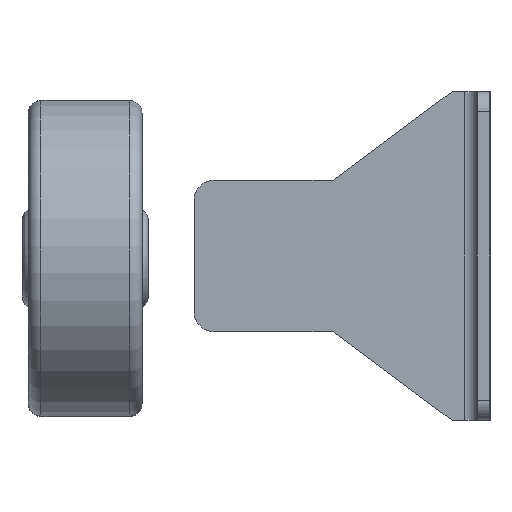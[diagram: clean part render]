
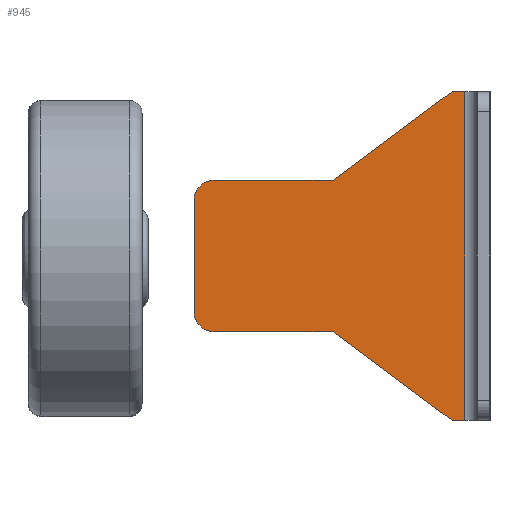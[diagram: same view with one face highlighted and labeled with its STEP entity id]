
A CAD part, left-side view. The second image highlights one B-rep face of the part: STEP entity #945.
In plain terms, the highlighted planar face has unit normal (-1, 0, 0).
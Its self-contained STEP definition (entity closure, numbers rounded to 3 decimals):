
#705=CARTESIAN_POINT('',(-450.,5.,-64.236));
#706=VERTEX_POINT('',#705);
#715=CARTESIAN_POINT('',(-450.,5.,65.764));
#716=VERTEX_POINT('',#715);
#724=CARTESIAN_POINT('',(-450.,5.,-64.236));
#725=DIRECTION('',(0.0,0.0,1.0));
#726=VECTOR('',#725,130.);
#727=LINE('',#724,#726);
#728=EDGE_CURVE('',#706,#716,#727,.T.);
#794=CARTESIAN_POINT('',(-450.,10.,-64.236));
#795=VERTEX_POINT('',#794);
#796=CARTESIAN_POINT('',(-450.,57.,-29.236));
#797=VERTEX_POINT('',#796);
#798=CARTESIAN_POINT('',(-450.,10.,-64.236));
#799=DIRECTION('',(0.,0.802,0.597));
#800=VECTOR('',#799,58.6);
#801=LINE('',#798,#800);
#802=EDGE_CURVE('',#795,#797,#801,.T.);
#825=CARTESIAN_POINT('',(-450.,5.,-64.236));
#826=DIRECTION('',(0.0,1.0,0.0));
#827=VECTOR('',#826,5.);
#828=LINE('',#825,#827);
#829=EDGE_CURVE('',#706,#795,#828,.T.);
#847=CARTESIAN_POINT('',(-450.,10.,65.764));
#848=VERTEX_POINT('',#847);
#855=CARTESIAN_POINT('',(-450.,10.,65.764));
#856=DIRECTION('',(0.0,-1.0,0.0));
#857=VECTOR('',#856,5.);
#858=LINE('',#855,#857);
#859=EDGE_CURVE('',#848,#716,#858,.T.);
#874=CARTESIAN_POINT('',(-450.,57.,30.764));
#875=VERTEX_POINT('',#874);
#876=CARTESIAN_POINT('',(-450.,57.,30.764));
#877=DIRECTION('',(0.,-0.802,0.597));
#878=VECTOR('',#877,58.6);
#879=LINE('',#876,#878);
#880=EDGE_CURVE('',#875,#848,#879,.T.);
#893=CARTESIAN_POINT('',(-450.,17.005,0.764));
#894=DIRECTION('',(-1.0,0.0,0.0));
#895=DIRECTION('',(0.0,0.0,1.0));
#896=AXIS2_PLACEMENT_3D('',#893,#894,#895);
#897=PLANE('',#896);
#898=ORIENTED_EDGE('',*,*,#728,.T.);
#899=ORIENTED_EDGE('',*,*,#859,.F.);
#900=ORIENTED_EDGE('',*,*,#880,.F.);
#901=CARTESIAN_POINT('',(-450.,104.,30.764));
#902=VERTEX_POINT('',#901);
#903=CARTESIAN_POINT('',(-450.,104.,30.764));
#904=DIRECTION('',(0.0,-1.0,0.0));
#905=VECTOR('',#904,47.);
#906=LINE('',#903,#905);
#907=EDGE_CURVE('',#902,#875,#906,.T.);
#908=ORIENTED_EDGE('',*,*,#907,.F.);
#909=CARTESIAN_POINT('',(-450.,112.,22.764));
#910=VERTEX_POINT('',#909);
#911=CARTESIAN_POINT('',(-450.,104.,22.764));
#912=DIRECTION('',(1.0,0.0,0.0));
#913=DIRECTION('',(0.0,0.0,1.0));
#914=AXIS2_PLACEMENT_3D('',#911,#912,#913);
#915=CIRCLE('',#914,8.0);
#916=EDGE_CURVE('',#910,#902,#915,.T.);
#917=ORIENTED_EDGE('',*,*,#916,.F.);
#918=CARTESIAN_POINT('',(-450.,112.,-21.236));
#919=VERTEX_POINT('',#918);
#920=CARTESIAN_POINT('',(-450.,112.,-21.236));
#921=DIRECTION('',(0.0,0.0,1.0));
#922=VECTOR('',#921,44.0);
#923=LINE('',#920,#922);
#924=EDGE_CURVE('',#919,#910,#923,.T.);
#925=ORIENTED_EDGE('',*,*,#924,.F.);
#926=CARTESIAN_POINT('',(-450.,104.,-29.236));
#927=VERTEX_POINT('',#926);
#928=CARTESIAN_POINT('',(-450.,104.,-21.236));
#929=DIRECTION('',(1.0,0.0,0.0));
#930=DIRECTION('',(0.0,1.0,0.0));
#931=AXIS2_PLACEMENT_3D('',#928,#929,#930);
#932=CIRCLE('',#931,8.0);
#933=EDGE_CURVE('',#927,#919,#932,.T.);
#934=ORIENTED_EDGE('',*,*,#933,.F.);
#935=CARTESIAN_POINT('',(-450.,57.,-29.236));
#936=DIRECTION('',(0.0,1.0,0.0));
#937=VECTOR('',#936,47.);
#938=LINE('',#935,#937);
#939=EDGE_CURVE('',#797,#927,#938,.T.);
#940=ORIENTED_EDGE('',*,*,#939,.F.);
#941=ORIENTED_EDGE('',*,*,#802,.F.);
#942=ORIENTED_EDGE('',*,*,#829,.F.);
#943=EDGE_LOOP('',(#898,#899,#900,#908,#917,#925,#934,#940,#941,#942));
#944=FACE_OUTER_BOUND('',#943,.T.);
#945=ADVANCED_FACE('',(#944),#897,.T.);
